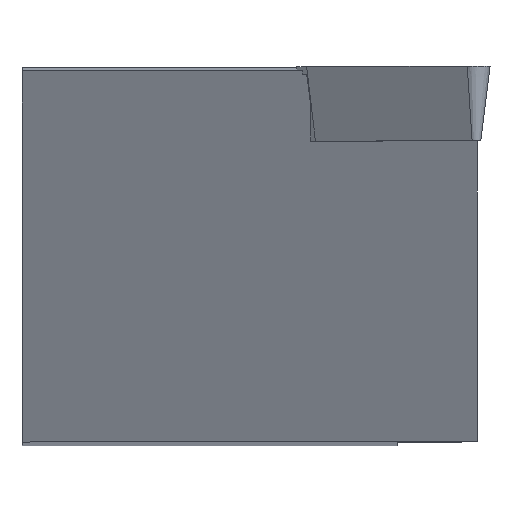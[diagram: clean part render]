
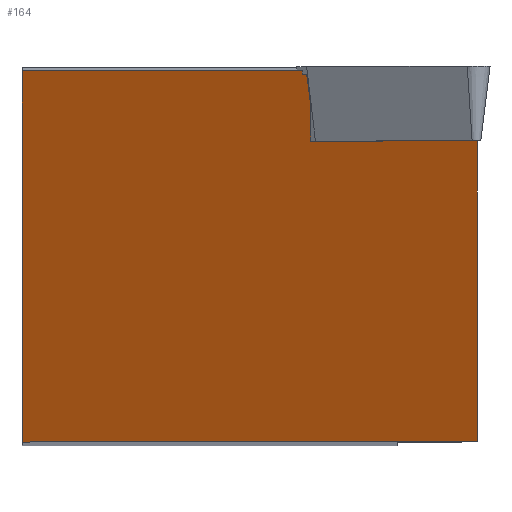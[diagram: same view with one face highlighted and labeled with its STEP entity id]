
A CAD part, top view. The second image highlights one B-rep face of the part: STEP entity #164.
In plain terms, the highlighted planar face has unit normal (-0.53, 0, 0.848).
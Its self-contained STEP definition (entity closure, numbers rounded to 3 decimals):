
#134=PLANE('',#760);
#164=ADVANCED_FACE('',(#200),#134,.F.);
#200=FACE_OUTER_BOUND('',#234,.T.);
#234=EDGE_LOOP('',(#503,#504,#505,#506,#507,#508,#509,#510,#511,#512));
#277=LINE('',#984,#350);
#281=LINE('',#993,#354);
#295=LINE('',#1024,#368);
#298=LINE('',#1030,#371);
#303=LINE('',#1040,#376);
#312=LINE('',#1062,#385);
#315=LINE('',#1069,#388);
#316=LINE('',#1071,#389);
#317=LINE('',#1073,#390);
#350=VECTOR('',#811,1.);
#354=VECTOR('',#817,1.);
#368=VECTOR('',#841,1.);
#371=VECTOR('',#846,1.);
#376=VECTOR('',#855,1.);
#385=VECTOR('',#872,1.);
#388=VECTOR('',#881,1.);
#389=VECTOR('',#884,1.);
#390=VECTOR('',#885,1.);
#503=ORIENTED_EDGE('',*,*,#703,.T.);
#504=ORIENTED_EDGE('',*,*,#704,.T.);
#505=ORIENTED_EDGE('',*,*,#699,.F.);
#506=ORIENTED_EDGE('',*,*,#660,.T.);
#507=ORIENTED_EDGE('',*,*,#646,.T.);
#508=ORIENTED_EDGE('',*,*,#664,.F.);
#509=ORIENTED_EDGE('',*,*,#702,.T.);
#510=ORIENTED_EDGE('',*,*,#687,.T.);
#511=ORIENTED_EDGE('',*,*,#682,.F.);
#512=ORIENTED_EDGE('',*,*,#679,.F.);
#587=VERTEX_POINT('',#956);
#588=VERTEX_POINT('',#957);
#598=VERTEX_POINT('',#985);
#601=VERTEX_POINT('',#992);
#611=VERTEX_POINT('',#1019);
#613=VERTEX_POINT('',#1023);
#615=VERTEX_POINT('',#1028);
#619=VERTEX_POINT('',#1041);
#624=VERTEX_POINT('',#1053);
#629=VERTEX_POINT('',#1072);
#646=EDGE_CURVE('',#587,#588,#733,.T.);
#660=EDGE_CURVE('',#598,#587,#277,.T.);
#664=EDGE_CURVE('',#601,#588,#281,.T.);
#679=EDGE_CURVE('',#613,#611,#295,.T.);
#682=EDGE_CURVE('',#611,#615,#298,.T.);
#687=EDGE_CURVE('',#619,#615,#303,.T.);
#699=EDGE_CURVE('',#598,#624,#312,.T.);
#702=EDGE_CURVE('',#601,#619,#315,.T.);
#703=EDGE_CURVE('',#613,#629,#316,.T.);
#704=EDGE_CURVE('',#629,#624,#317,.T.);
#733=ELLIPSE('',#735,18.867,16.);
#735=AXIS2_PLACEMENT_3D('',#955,#785,#786);
#760=AXIS2_PLACEMENT_3D('',#1074,#886,#887);
#785=DIRECTION('',(-0.53,0.,0.848));
#786=DIRECTION('',(0.848,0.,0.53));
#811=DIRECTION('',(0.,-1.,0.));
#817=DIRECTION('',(-0.848,0.,-0.53));
#841=DIRECTION('',(0.126,-0.989,0.079));
#846=DIRECTION('',(0.,-1.,0.));
#855=DIRECTION('',(-0.848,0.,-0.53));
#872=DIRECTION('',(0.848,0.,0.53));
#881=DIRECTION('',(0.,1.,0.));
#884=DIRECTION('',(-0.848,0.,-0.53));
#885=DIRECTION('',(0.,1.,0.));
#886=DIRECTION('',(0.53,0.,-0.848));
#887=DIRECTION('',(-0.848,0.,-0.53));
#955=CARTESIAN_POINT('',(-12.5,-10.,-8.304));
#956=CARTESIAN_POINT('',(-25.,-19.987,-16.115));
#957=CARTESIAN_POINT('',(-24.99,-20.,-16.109));
#984=CARTESIAN_POINT('',(-25.,0.,-16.115));
#985=CARTESIAN_POINT('',(-25.,-0.213,-16.115));
#992=CARTESIAN_POINT('',(-0.72,-20.,-0.943));
#993=CARTESIAN_POINT('',(-0.72,-20.,-0.943));
#1019=CARTESIAN_POINT('',(-9.606,-2.07,-6.496));
#1023=CARTESIAN_POINT('',(-9.817,-0.413,-6.628));
#1024=CARTESIAN_POINT('',(-9.985,0.907,-6.733));
#1028=CARTESIAN_POINT('',(-9.606,-3.97,-6.496));
#1030=CARTESIAN_POINT('',(-9.606,-3.97,-6.496));
#1040=CARTESIAN_POINT('',(-5.374,-3.97,-3.851));
#1041=CARTESIAN_POINT('',(-0.72,-3.97,-0.943));
#1053=CARTESIAN_POINT('',(-10.049,-0.213,-6.773));
#1062=CARTESIAN_POINT('',(-28.543,-0.213,-18.329));
#1069=CARTESIAN_POINT('',(-0.72,-20.,-0.943));
#1071=CARTESIAN_POINT('',(-0.72,-0.413,-0.943));
#1072=CARTESIAN_POINT('',(-10.049,-0.413,-6.773));
#1073=CARTESIAN_POINT('',(-10.049,-20.,-6.773));
#1074=CARTESIAN_POINT('',(-0.72,-20.,-0.943));
